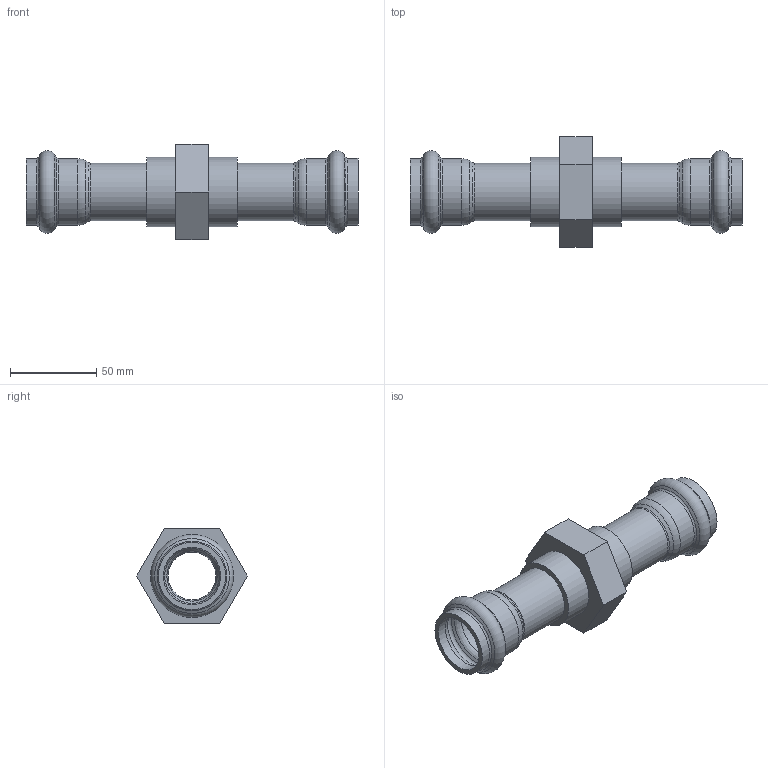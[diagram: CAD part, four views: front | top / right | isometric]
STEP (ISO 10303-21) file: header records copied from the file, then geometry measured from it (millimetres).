
FILE_DESCRIPTION(/* description */ ('VIC THREADED UNION STYLE P585 (P X P)','CAx-IF Rec.Pracs.---Representation and Presentation of Product Manufacturing Information (PMI)---4.0---2014-10-13'),/* implementation_level */ '2;1');
FILE_NAME(/* name */ 'C:\Users\kkamble\AppData\Roaming\Autodesk\ApplicationPlugins\Back Up\Victaulic_SS-Vic-Press-TP 316_Union Threaded_Style P585 (VP)\Victaulic_SS-Vic-Press-TP 316_Union Threaded_Style P585 (VP)_1 (25).stp',/* time_stamp */ '2020-08-14T15:52:48+05:00',/* author */ ('jheald'),/* organization */ ('Victaulic'),/* preprocessor_version */ 'ST-DEVELOPER v17.2',/* originating_system */ 'Autodesk Inventor 2019',/* authorisation */ '');
FILE_SCHEMA (('AP242_MANAGED_MODEL_BASED_3D_ENGINEERING_MIM_LF { 1 0 10303 442 1 1 4 }'));
Length unit declared in the file: inch
Products named in the file (1): P585-01.0
Bounding box: 192.79 x 64.23 x 55.63 mm (x, y, z)
Volume: 106146.2 mm3; surface area: 49127.7 mm2
Topology: 1 solids, 1 shells, 57 faces, 201 edges, 150 vertices
Faces by surface type: torus 20, cylinder 13, cone 12, plane 12
Full cylindrical faces by diameter (mm): 27.864 x1, 33.401 x6, 38.938 x4, 40.132 x2
Entity records: 2539 total; most frequent: DIRECTION 501, CARTESIAN_POINT 426, ORIENTED_EDGE 402, AXIS2_PLACEMENT_3D 229, EDGE_CURVE 201, CIRCLE 158, VERTEX_POINT 150, EDGE_LOOP 63
